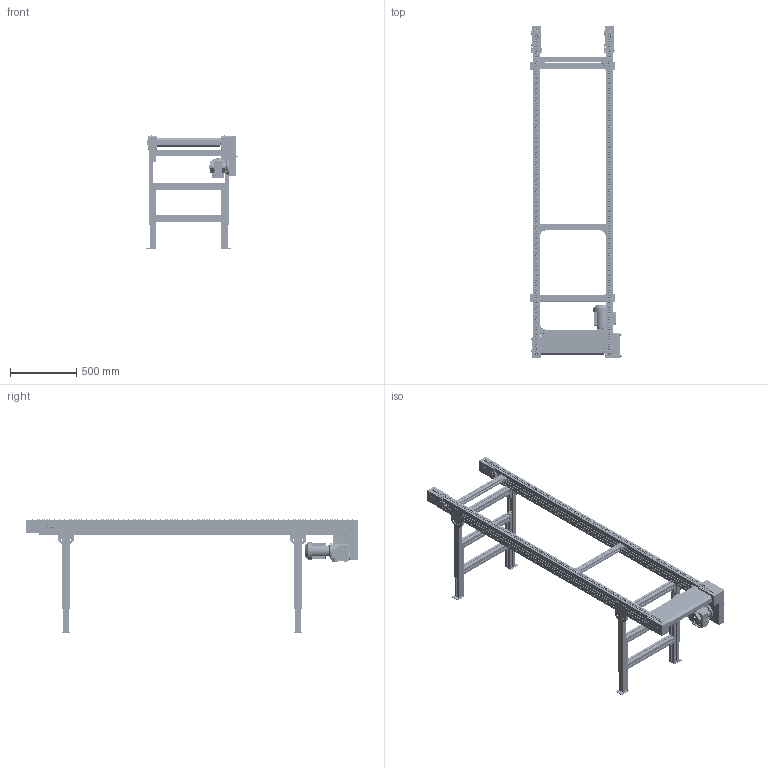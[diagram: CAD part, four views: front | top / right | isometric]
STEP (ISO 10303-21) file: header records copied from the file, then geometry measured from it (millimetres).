
FILE_DESCRIPTION(/* description */ (''),/* implementation_level */ '2;1');
FILE_NAME(/* name */ 'C:\Marketing\01_Versamove-SPU_STEP-Dateien-Homepage\Versamove plus\STEP-Dateien\Kettenförderer_KTF-P-2010_B600_L2500.stp',/* time_stamp */ '2016-12-22T08:39:50+01:00',/* author */ ('herbert.engels'),/* organization */ (''),/* preprocessor_version */ 'ST-DEVELOPER v15.6',/* originating_system */ 'Autodesk Inventor 2015',/* authorisation */ '');
FILE_SCHEMA (('CONFIG_CONTROL_DESIGN'));
Products named in the file (1): Kettenförderer_KTF-P-2010_B600_L2500
Bounding box: 690.6 x 2503 x 852.55 mm (x, y, z)
Volume: 44531184.6 mm3; surface area: 7381654.3 mm2
Topology: 13 solids, 13 shells, 9783 faces, 25694 edges, 16692 vertices
Faces by surface type: plane 5155, cylinder 4214, torus 214, cone 169, bspline 23, sphere 8
Full cylindrical faces by diameter (mm): 2 x2, 4.45 x758, 5.459 x4, 6 x21, 6.6 x4, 7 x8, 8 x39, 8.51 x384, 8.8 x19, 9.5 x2, 11.8 x760, 12 x6, 13 x12, 14 x3, 16.2 x4, 19 x3, 20 x6, 24 x1, 25 x1, 25.5 x4, 35 x12, 37 x1, 38 x1, 40 x4, 43 x1, 52 x1, 56 x2, 62 x2, 73 x8, 80 x3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
Entity records: 301547 total; most frequent: CARTESIAN_POINT 53971, DIRECTION 51379, ORIENTED_EDGE 46086, EDGE_CURVE 22664, AXIS2_PLACEMENT_3D 20060, VERTEX_POINT 15841, EDGE_LOOP 14252, LINE 11259
